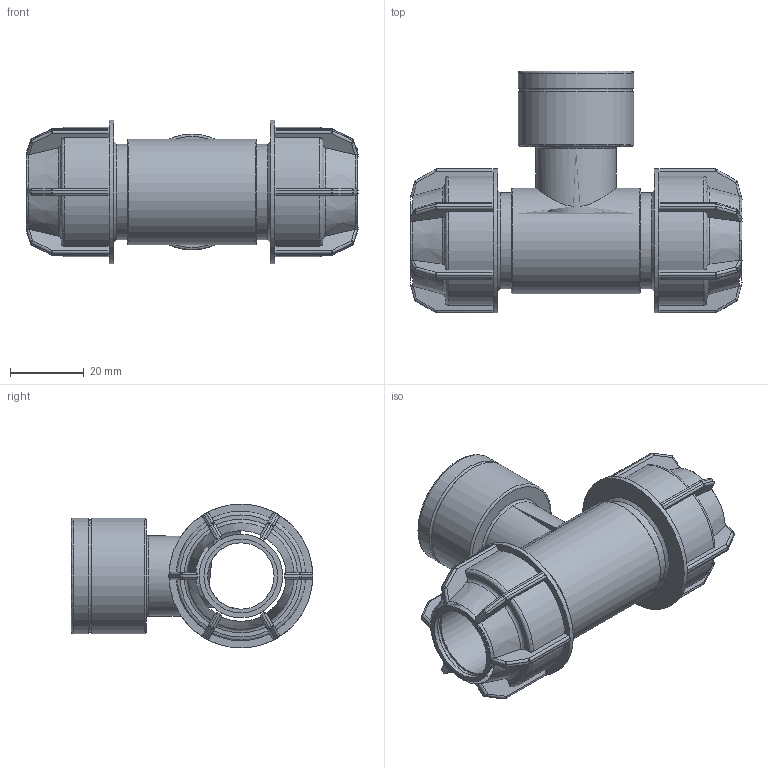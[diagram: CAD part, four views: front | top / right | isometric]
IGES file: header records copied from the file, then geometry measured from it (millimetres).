
Global section: file name: 041407020007.ipt; native system: Autodesk Inventor 2015; preprocessor: unknown; author: KIM; date: 20180409.130649; units: millimetre
Bounding box: 90 x 65.5 x 39 mm (x, y, z)
Volume: 48670.8 mm3; surface area: 23977.4 mm2
Topology: 1 solids, 1 shells, 418 faces, 1031 edges, 603 vertices
Faces by surface type: plane 199, cylinder 116, sphere 48, revolution 39, cone 16
Full cylindrical faces by diameter (mm): 21.705 x1, 26 x2, 28.6 x1, 31.352 x2, 39 x2
